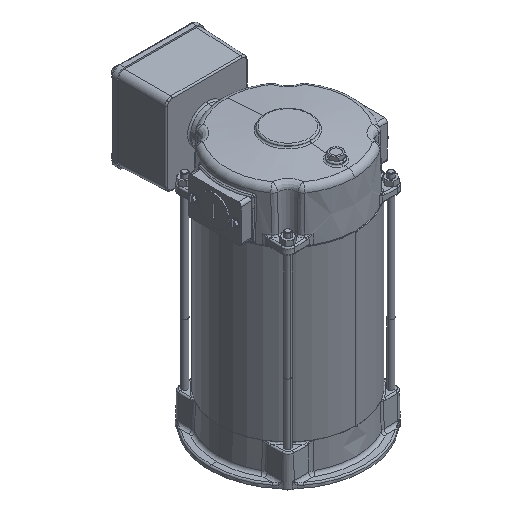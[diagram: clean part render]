
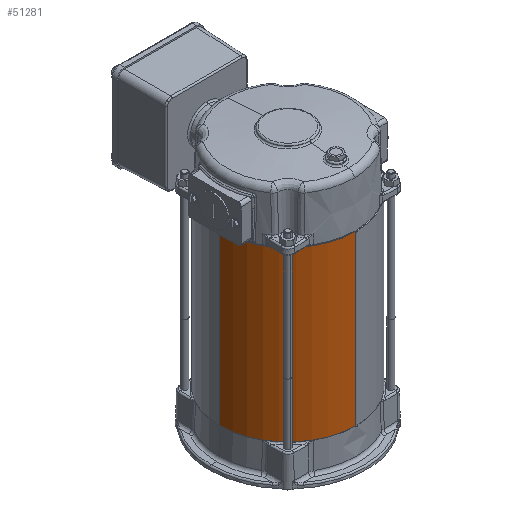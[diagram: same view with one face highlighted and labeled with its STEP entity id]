
A CAD part, isometric view. The second image highlights one B-rep face of the part: STEP entity #51281.
In plain terms, the highlighted cylindrical face has radius 71.857 mm (diameter 143.713 mm), a partial arc.
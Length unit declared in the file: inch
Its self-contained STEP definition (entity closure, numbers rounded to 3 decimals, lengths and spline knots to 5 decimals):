
#360 = CARTESIAN_POINT ( 'NONE',  ( -0.04, -2.82872, 10.43545 ) ) ;
#2226 = AXIS2_PLACEMENT_3D ( 'NONE', #20105, #68617, #27089 ) ;
#5713 = DIRECTION ( 'NONE',  ( -1., 0., 0. ) ) ;
#7057 = VECTOR ( 'NONE', #67336, 39.37008 ) ;
#7311 = LINE ( 'NONE', #39748, #7057 ) ;
#9443 = CIRCLE ( 'NONE', #40210, 2.829 ) ;
#11038 = CYLINDRICAL_SURFACE ( 'NONE', #33654, 2.829 ) ;
#15829 = DIRECTION ( 'NONE',  ( 0., 0., 1. ) ) ;
#17539 = ORIENTED_EDGE ( 'NONE', *, *, #27991, .F. ) ;
#20105 = CARTESIAN_POINT ( 'NONE',  ( 0., 0., 10.43545 ) ) ;
#20325 = ORIENTED_EDGE ( 'NONE', *, *, #24939, .T. ) ;
#22001 = ORIENTED_EDGE ( 'NONE', *, *, #56935, .T. ) ;
#23004 = ORIENTED_EDGE ( 'NONE', *, *, #74824, .T. ) ;
#24185 = EDGE_LOOP ( 'NONE', ( #17539, #20325, #22001, #23004 ) ) ;
#24939 = EDGE_CURVE ( 'NONE', #58387, #40127, #9443, .T. ) ;
#26431 = VERTEX_POINT ( 'NONE', #360 ) ;
#27089 = DIRECTION ( 'NONE',  ( 1., 0., 0. ) ) ;
#27991 = EDGE_CURVE ( 'NONE', #58387, #36421, #74454, .T. ) ;
#33654 = AXIS2_PLACEMENT_3D ( 'NONE', #56727, #49741, #63363 ) ;
#36421 = VERTEX_POINT ( 'NONE', #48790 ) ;
#37435 = CIRCLE ( 'NONE', #2226, 2.829 ) ;
#39748 = CARTESIAN_POINT ( 'NONE',  ( -0.04, -2.82872, 3.28338 ) ) ;
#40127 = VERTEX_POINT ( 'NONE', #81996 ) ;
#40210 = AXIS2_PLACEMENT_3D ( 'NONE', #88473, #47074, #5713 ) ;
#47074 = DIRECTION ( 'NONE',  ( 0., 0., 1. ) ) ;
#48790 = CARTESIAN_POINT ( 'NONE',  ( -2.829, 0., 10.43545 ) ) ;
#49741 = DIRECTION ( 'NONE',  ( 0., 0., 1. ) ) ;
#49788 = CARTESIAN_POINT ( 'NONE',  ( -2.829, 0., 3.43545 ) ) ;
#51281 = ADVANCED_FACE ( 'NONE', ( #51471 ), #11038, .T. ) ;
#51471 = FACE_OUTER_BOUND ( 'NONE', #24185, .T. ) ;
#56727 = CARTESIAN_POINT ( 'NONE',  ( 0., 0., 3.37295 ) ) ;
#56935 = EDGE_CURVE ( 'NONE', #40127, #26431, #7311, .T. ) ;
#58387 = VERTEX_POINT ( 'NONE', #49788 ) ;
#63363 = DIRECTION ( 'NONE',  ( 1., 0., 0. ) ) ;
#64275 = CARTESIAN_POINT ( 'NONE',  ( -2.829, 0., 3.37295 ) ) ;
#67336 = DIRECTION ( 'NONE',  ( 0., 0., 1. ) ) ;
#68617 = DIRECTION ( 'NONE',  ( 0., 0., -1. ) ) ;
#73948 = VECTOR ( 'NONE', #15829, 39.37008 ) ;
#74454 = LINE ( 'NONE', #64275, #73948 ) ;
#74824 = EDGE_CURVE ( 'NONE', #26431, #36421, #37435, .T. ) ;
#81996 = CARTESIAN_POINT ( 'NONE',  ( -0.04, -2.82872, 3.43545 ) ) ;
#88473 = CARTESIAN_POINT ( 'NONE',  ( 0., 0., 3.43545 ) ) ;
